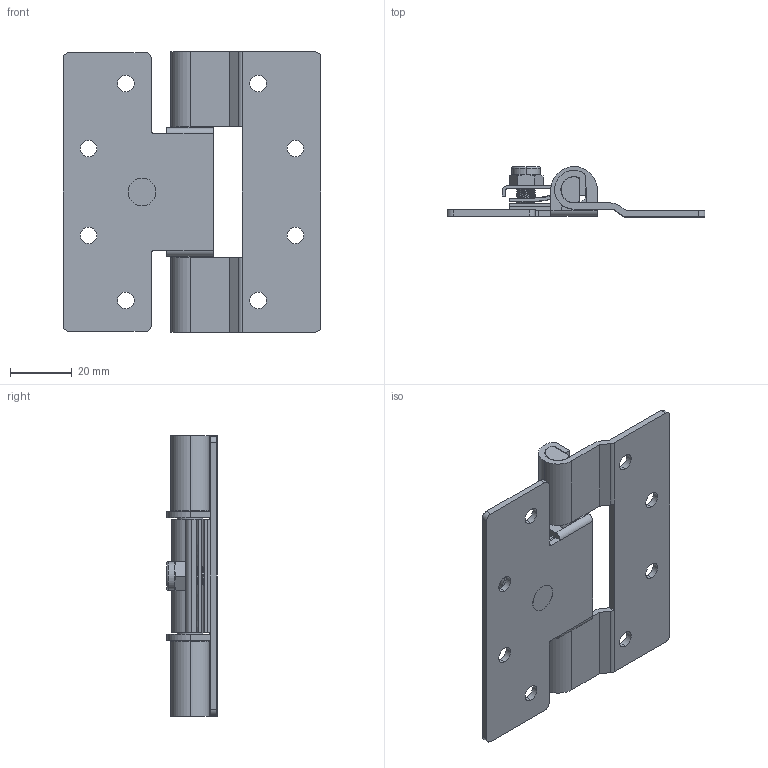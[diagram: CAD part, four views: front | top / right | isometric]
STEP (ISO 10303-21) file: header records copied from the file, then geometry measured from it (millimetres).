
FILE_DESCRIPTION (( 'STEP AP203' ), '1' );
FILE_NAME ('XG11-077-2.STEP', '2023-12-05T02:31:12', ( '' ), ( '' ), 'SwSTEP 2.0', 'SolidWorks 2020', '' );
FILE_SCHEMA (( 'CONFIG_CONTROL_DESIGN' ));
Length unit declared in the file: millimetre
Products named in the file (5): M6芮芛蹟譫; 錨璃2; 錨璃3; XG11-077-2; 錨璃1
Assembly tree (4 placements, depth 2):
  XG11-077-2
    錨璃2
    錨璃1
    錨璃3
    M6芮芛蹟譫
Bounding box: 83.25 x 16.25 x 90.5 mm (x, y, z)
Volume: 24299.4 mm3; surface area: 29929.6 mm2
Topology: 6 solids, 6 shells, 230 faces, 634 edges, 414 vertices
Faces by surface type: cylinder 133, plane 79, bspline 11, cone 5, torus 2
Entity records: 11777 total; most frequent: CARTESIAN_POINT 5642, ORIENTED_EDGE 1268, DIRECTION 1104, EDGE_CURVE 634, VERTEX_POINT 414, AXIS2_PLACEMENT_3D 391, LINE 322, VECTOR 322
